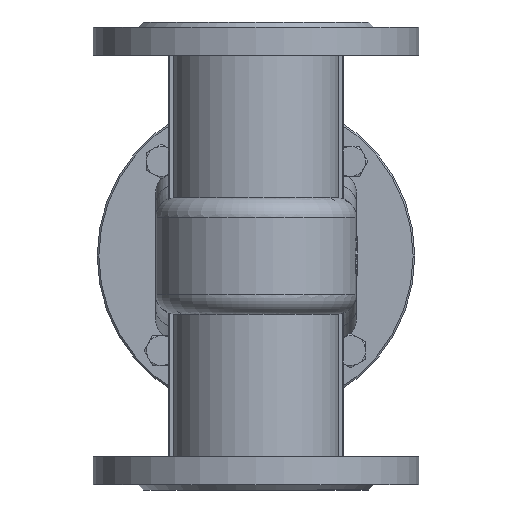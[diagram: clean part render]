
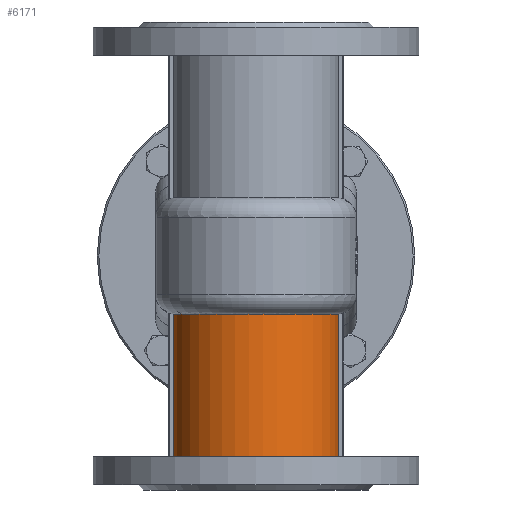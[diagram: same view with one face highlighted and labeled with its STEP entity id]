
A CAD part, front view. The second image highlights one B-rep face of the part: STEP entity #6171.
In plain terms, the highlighted cylindrical face has radius 50 mm (diameter 100 mm), a partial arc.
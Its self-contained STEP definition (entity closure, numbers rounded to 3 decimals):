
#6171=ADVANCED_FACE('',(#13267),#13269,.T.);
#13267=FACE_BOUND('',#13268,.T.);
#13268=EDGE_LOOP('',(#18446,#18447,#18448,#18449,#18450,#18451));
#13269=CYLINDRICAL_SURFACE('',#13270,50.);
#13270=AXIS2_PLACEMENT_3D('',#13271,#13272,#13273);
#13271=CARTESIAN_POINT('',(0.,0.,-121.));
#13272=DIRECTION('',(0.,0.,1.));
#13273=DIRECTION('',(-0.989,-0.15,0.));
#18446=ORIENTED_EDGE('',*,*,#20965,.F.);
#18447=ORIENTED_EDGE('',*,*,#20998,.T.);
#18448=ORIENTED_EDGE('',*,*,#20999,.T.);
#18449=ORIENTED_EDGE('',*,*,#20688,.T.);
#18450=ORIENTED_EDGE('',*,*,#20996,.F.);
#18451=ORIENTED_EDGE('',*,*,#21000,.F.);
#20688=EDGE_CURVE('',#23715,#23712,#23716,.T.);
#20965=EDGE_CURVE('',#24163,#24165,#24166,.F.);
#20996=EDGE_CURVE('',#24213,#23712,#24215,.T.);
#20998=EDGE_CURVE('',#24163,#24217,#24218,.T.);
#20999=EDGE_CURVE('',#24217,#23715,#24219,.T.);
#21000=EDGE_CURVE('',#24165,#24213,#24220,.T.);
#23712=VERTEX_POINT('',#41403);
#23715=VERTEX_POINT('',#41435);
#23716=CIRCLE('',#41436,50.);
#24163=VERTEX_POINT('',#43420);
#24165=VERTEX_POINT('',#43424);
#24166=CIRCLE('',#43425,50.);
#24213=VERTEX_POINT('',#43675);
#24215=LINE('',#43679,#43680);
#24217=VERTEX_POINT('',#43685);
#24218=LINE('',#43686,#43687);
#24219=LINE('',#43689,#43690);
#24220=LINE('',#43692,#43693);
#41403=CARTESIAN_POINT('',(-49.434,-7.5,-34.832));
#41435=CARTESIAN_POINT('',(49.434,-7.5,-34.832));
#41436=AXIS2_PLACEMENT_3D('',#41437,#41438,#41439);
#41437=CARTESIAN_POINT('',(0.,0.,-34.832));
#41438=DIRECTION('',(0.,0.,-1.));
#41439=DIRECTION('',(0.989,-0.15,0.));
#43420=CARTESIAN_POINT('',(49.434,-7.5,-120.));
#43424=CARTESIAN_POINT('',(-49.434,-7.5,-120.));
#43425=AXIS2_PLACEMENT_3D('',#43426,#43427,#43428);
#43426=CARTESIAN_POINT('',(0.,0.,-120.));
#43427=DIRECTION('',(0.,0.,1.));
#43428=DIRECTION('',(-0.989,-0.15,0.));
#43675=CARTESIAN_POINT('',(-49.434,-7.5,-35.));
#43679=CARTESIAN_POINT('',(-49.434,-7.5,-35.));
#43680=VECTOR('',#43681,1.);
#43681=DIRECTION('',(0.,0.,1.));
#43685=CARTESIAN_POINT('',(49.434,-7.5,-35.));
#43686=CARTESIAN_POINT('',(49.434,-7.5,-120.));
#43687=VECTOR('',#43688,1.);
#43688=DIRECTION('',(0.,0.,1.));
#43689=CARTESIAN_POINT('',(49.434,-7.5,-35.));
#43690=VECTOR('',#43691,1.);
#43691=DIRECTION('',(0.,0.,1.));
#43692=CARTESIAN_POINT('',(-49.434,-7.5,-120.));
#43693=VECTOR('',#43694,1.);
#43694=DIRECTION('',(0.,0.,1.));
